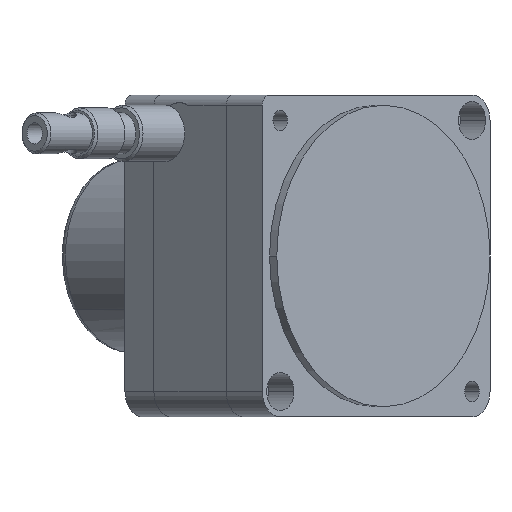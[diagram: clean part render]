
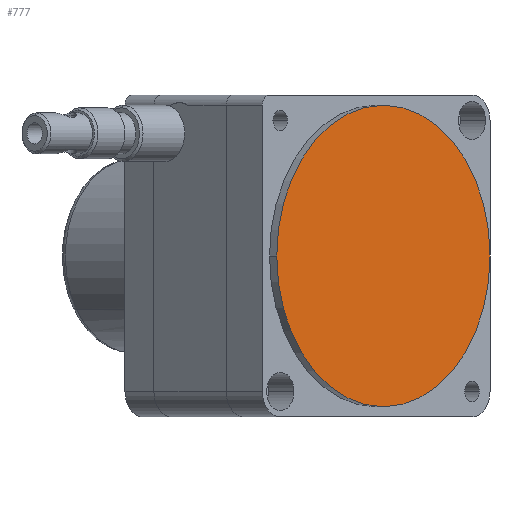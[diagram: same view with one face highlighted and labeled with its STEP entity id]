
A CAD part, left-side view. The second image highlights one B-rep face of the part: STEP entity #777.
In plain terms, the highlighted planar face has unit normal (-0.707, -0.707, 0).
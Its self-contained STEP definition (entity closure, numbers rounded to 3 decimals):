
#777=ADVANCED_FACE('',(#1046),#986,.F.);
#986=PLANE('',#3515);
#1046=FACE_OUTER_BOUND('',#1227,.T.);
#1227=EDGE_LOOP('',(#1487,#1488));
#1487=ORIENTED_EDGE('',*,*,#2796,.T.);
#1488=ORIENTED_EDGE('',*,*,#2797,.T.);
#2473=VERTEX_POINT('',#4945);
#2474=VERTEX_POINT('',#4946);
#2796=EDGE_CURVE('',#2473,#2474,#3289,.T.);
#2797=EDGE_CURVE('',#2474,#2473,#3290,.T.);
#3289=CIRCLE('',#3513,29.5);
#3290=CIRCLE('',#3514,29.5);
#3513=AXIS2_PLACEMENT_3D('',#4944,#3928,#3929);
#3514=AXIS2_PLACEMENT_3D('',#4947,#3930,#3931);
#3515=AXIS2_PLACEMENT_3D('',#4948,#3932,#3933);
#3928=DIRECTION('',(-0.707,-0.707,0.));
#3929=DIRECTION('',(-0.707,0.707,0.));
#3930=DIRECTION('',(-0.707,-0.707,0.));
#3931=DIRECTION('',(0.707,-0.707,0.));
#3932=DIRECTION('',(0.707,0.707,0.));
#3933=DIRECTION('',(0.707,-0.707,0.));
#4944=CARTESIAN_POINT('',(192.143,-84.106,-69.111));
#4945=CARTESIAN_POINT('',(171.284,-63.246,-69.111));
#4946=CARTESIAN_POINT('',(213.003,-104.965,-69.111));
#4947=CARTESIAN_POINT('',(192.143,-84.106,-69.111));
#4948=CARTESIAN_POINT('',(192.143,-84.106,-69.111));
